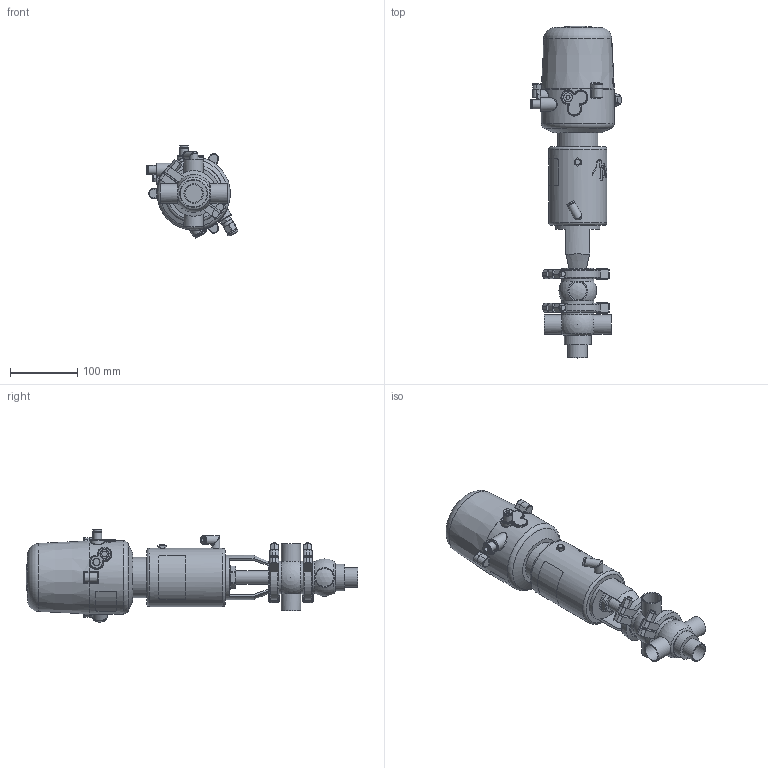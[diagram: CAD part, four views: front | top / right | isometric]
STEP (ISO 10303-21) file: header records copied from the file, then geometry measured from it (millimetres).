
FILE_DESCRIPTION (( 'STEP AP214' ), '1' );
FILE_NAME ('INNOVA K G W DIN 025 T1 AS NC & C-TOP S_10.240.16.0082.STEP', '2024-08-06T09:03:28', ( '' ), ( '' ), 'SwSTEP 2.0', 'SolidWorks 2023', '' );
FILE_SCHEMA (( 'AUTOMOTIVE_DESIGN' ));
Length unit declared in the file: millimetre
Products named in the file (8): 10.240.15.0014_T1 AS P0; 10.240.15.0010_DN 025; 10.426.15.0001_C-TOP S - 1 EV; INNOVA K G W DIN 025 T1 AS NC & C-TOP S_10.240.16.0082; 10.240.15.0017_Estàndard; 10.240.15.0001_DN 025; 10.240.15.0007_DIN 025; 10.240.15.0003_DIN 025
Assembly tree (8 placements, depth 2):
  INNOVA K G W DIN 025 T1 AS NC & C-TOP S_10.240.16.0082
    10.240.15.0007_DIN 025
    10.240.15.0003_DIN 025
    10.240.15.0010_DN 025
    10.240.15.0014_T1 AS P0
    10.240.15.0017_Estàndard
    10.426.15.0001_C-TOP S - 1 EV
    10.240.15.0001_DN 025  x2
Bounding box: 136.88 x 495 x 137.63 mm (x, y, z)
Volume: 2513956.6 mm3; surface area: 237742.6 mm2
Topology: 8 solids, 8 shells, 1187 faces, 2883 edges, 1918 vertices
Faces by surface type: plane 412, cylinder 361, cone 205, bspline 160, torus 37, sphere 12
Full cylindrical faces by diameter (mm): 0.371 x17, 0.512 x16, 0.658 x16, 0.795 x16, 0.94 x15, 1.098 x15, 1.241 x13, 1.382 x13, 1.523 x11, 1.669 x10, 2.201 x1, 4 x2, 5.5 x2, 6 x2, 6.15 x1, 8 x6, 8.5 x1, 10 x1, 10.5 x1, 11 x2, 12.5 x3, 13 x2, 13.5 x2, 16 x1, 17 x3, 20 x3, 20.5 x1, 22 x2, 26 x5, 29 x5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
Entity records: 57425 total; most frequent: CARTESIAN_POINT 26865, ORIENTED_EDGE 4584, DIRECTION 3729, EDGE_CURVE 2292, VERTEX_POINT 1629, EDGE_LOOP 1587, AXIS2_PLACEMENT_3D 1532, FACE_OUTER_BOUND 1349
